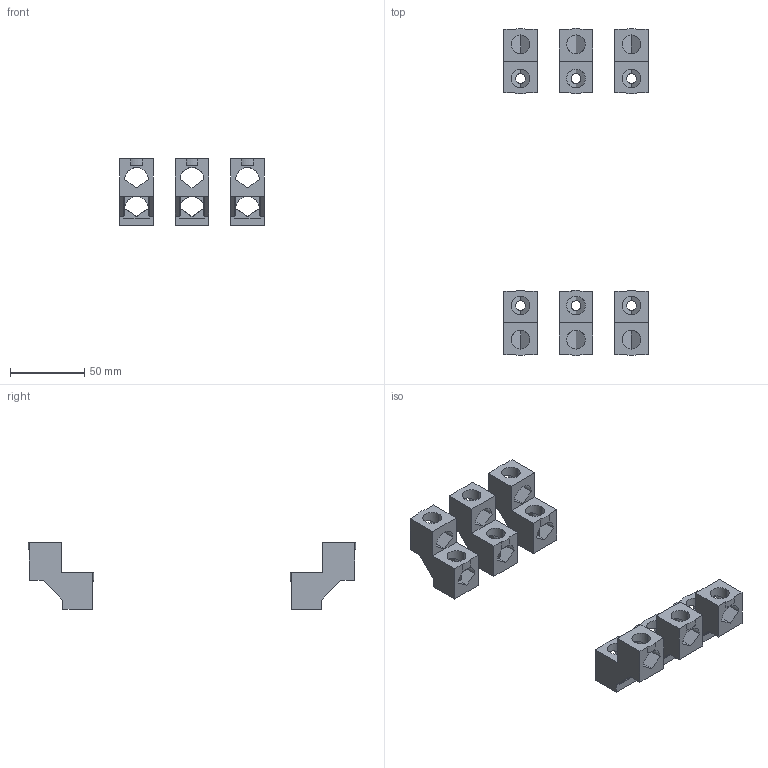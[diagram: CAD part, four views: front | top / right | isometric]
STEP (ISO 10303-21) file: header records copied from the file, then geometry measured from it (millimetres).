
FILE_DESCRIPTION (( 'STEP AP214' ), '1' );
FILE_NAME ('Êîìïëåêò çàæèìîâ äâóõãíåçäíûõ 2õ95 êâ ìì ÂÀ04-36ÂÀ51-35-ÓÕË3 16-160 À.STEP', '2023-07-24T12:37:57', ( '' ), ( '' ), 'SwSTEP 2.0', 'SolidWorks 2018', '' );
FILE_SCHEMA (( 'AUTOMOTIVE_DESIGN' ));
Length unit declared in the file: millimetre
Products named in the file (1): Êîìïëåêò çàæèìîâ äâóõãíåçäíûõ 2õ95 êâ ìì ÂÀ04-36ÂÀ51-35-ÓÕË3 16-160 À
Bounding box: 97.18 x 220.28 x 45 mm (x, y, z)
Volume: 97965 mm3; surface area: 46593.4 mm2
Topology: 6 solids, 6 shells, 216 faces, 636 edges, 414 vertices
Faces by surface type: plane 156, cylinder 60
Entity records: 10799 total; most frequent: CARTESIAN_POINT 2497, ORIENTED_EDGE 1272, DIRECTION 1118, EDGE_CURVE 636, VECTOR 504, LINE 504, VERTEX_POINT 414, AXIS2_PLACEMENT_3D 307
